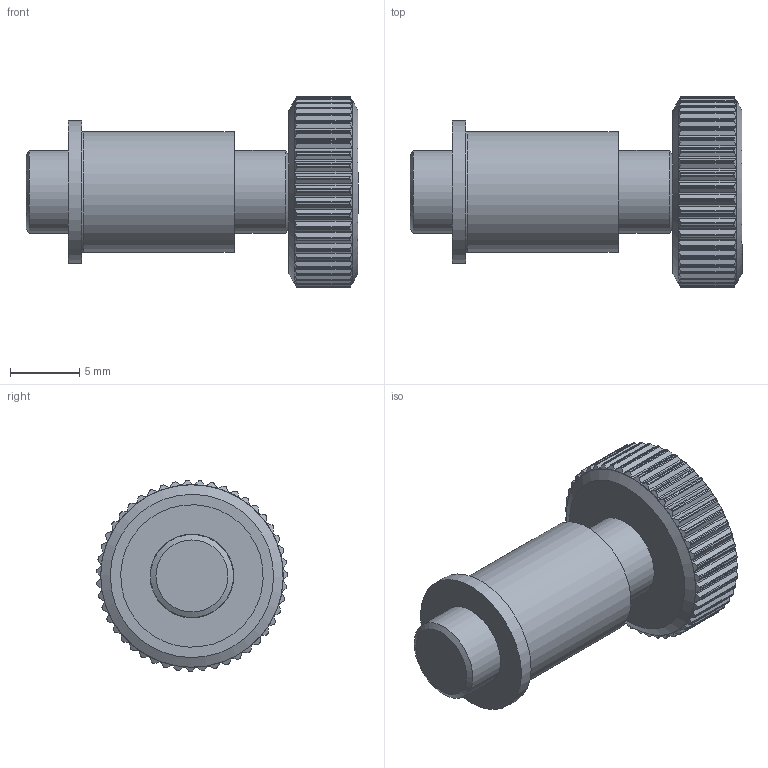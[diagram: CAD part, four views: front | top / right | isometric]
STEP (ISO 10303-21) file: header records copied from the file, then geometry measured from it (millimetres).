
FILE_DESCRIPTION(/* description */ (''),/* implementation_level */ '2;1');
FILE_NAME(/* name */ 'U:\KONSTRUKTORIAI\DOKUMENTACIJA\9\9S127B\step\9S127B-7.stp',/* time_stamp */ '2017-02-10T14:40:49+02:00',/* author */ ('dsgn33'),/* organization */ (''),/* preprocessor_version */ 'ST-DEVELOPER v15.2',/* originating_system */ 'Autodesk Inventor 2014',/* authorisation */ '');
FILE_SCHEMA (('AUTOMOTIVE_DESIGN { 1 0 10303 214 3 1 1 }'));
Length unit declared in the file: millimetre
Products named in the file (2): Part4; Assembly2
Bounding box: 24 x 13.79 x 13.79 mm (x, y, z)
Volume: 1534 mm3; surface area: 1245.5 mm2
Topology: 1 solids, 2 shells, 441 faces, 1255 edges, 832 vertices
Faces by surface type: cylinder 198, plane 159, bspline 71, cone 12, torus 1
Full cylindrical faces by diameter (mm): 1.5 x1, 2 x1, 3 x1, 3.1 x1, 6 x2, 8.7 x1, 10.3 x1, 13.2 x2
Entity records: 15432 total; most frequent: CARTESIAN_POINT 5585, ORIENTED_EDGE 2444, DIRECTION 1478, EDGE_CURVE 1222, VERTEX_POINT 822, AXIS2_PLACEMENT_3D 501, EDGE_LOOP 478, LINE 476
